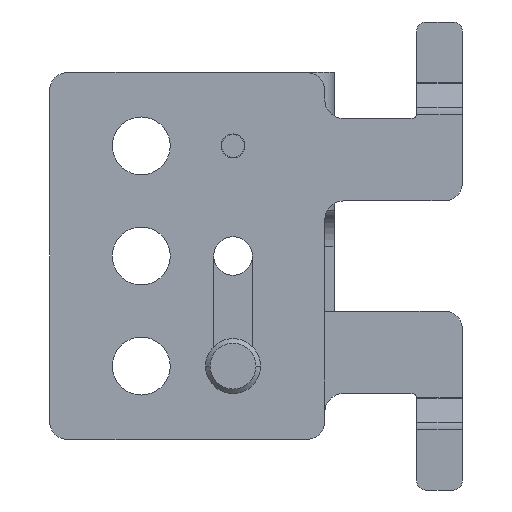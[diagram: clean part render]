
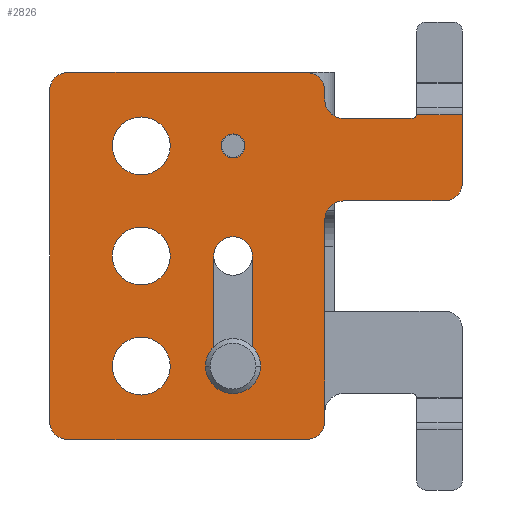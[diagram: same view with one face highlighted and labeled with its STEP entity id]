
A CAD part, left-side view. The second image highlights one B-rep face of the part: STEP entity #2826.
In plain terms, the highlighted planar face has unit normal (-1, 0, 0) as drawn and (1, 0, 0) by its records, which use the part's own axes.
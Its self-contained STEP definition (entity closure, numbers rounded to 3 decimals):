
#2063=DIRECTION('',(0.,0.,-1.));
#2064=VECTOR('',#2063,12.);
#2065=CARTESIAN_POINT('',(2.,12.1,12.));
#2066=LINE('',#2065,#2064);
#2067=CARTESIAN_POINT('',(2.,10.,12.));
#2068=DIRECTION('',(-1.,0.,0.));
#2069=DIRECTION('',(0.,-1.,0.));
#2070=AXIS2_PLACEMENT_3D('',#2067,#2068,#2069);
#2072=DIRECTION('',(0.,0.,1.));
#2073=VECTOR('',#2072,12.);
#2074=CARTESIAN_POINT('',(2.,7.9,0.));
#2075=LINE('',#2074,#2073);
#2076=CARTESIAN_POINT('',(2.,10.,0.));
#2077=DIRECTION('',(-1.,0.,0.));
#2078=DIRECTION('',(0.,1.,0.));
#2079=AXIS2_PLACEMENT_3D('',#2076,#2077,#2078);
#2081=CARTESIAN_POINT('',(2.,10.,-12.));
#2082=DIRECTION('',(-1.,0.,0.));
#2083=DIRECTION('',(0.,0.,1.));
#2084=AXIS2_PLACEMENT_3D('',#2081,#2082,#2083);
#2086=CARTESIAN_POINT('',(2.,10.,-12.));
#2087=DIRECTION('',(-1.,0.,0.));
#2088=DIRECTION('',(0.,0.,-1.));
#2089=AXIS2_PLACEMENT_3D('',#2086,#2087,#2088);
#2091=CARTESIAN_POINT('',(2.,20.,-12.));
#2092=DIRECTION('',(-1.,0.,0.));
#2093=DIRECTION('',(0.,0.,-1.));
#2094=AXIS2_PLACEMENT_3D('',#2091,#2092,#2093);
#2096=CARTESIAN_POINT('',(2.,20.,-12.));
#2097=DIRECTION('',(-1.,0.,0.));
#2098=DIRECTION('',(0.,0.,1.));
#2099=AXIS2_PLACEMENT_3D('',#2096,#2097,#2098);
#2101=CARTESIAN_POINT('',(2.,20.,0.));
#2102=DIRECTION('',(-1.,0.,0.));
#2103=DIRECTION('',(0.,0.,-1.));
#2104=AXIS2_PLACEMENT_3D('',#2101,#2102,#2103);
#2106=CARTESIAN_POINT('',(2.,20.,0.));
#2107=DIRECTION('',(-1.,0.,0.));
#2108=DIRECTION('',(0.,0.,1.));
#2109=AXIS2_PLACEMENT_3D('',#2106,#2107,#2108);
#2111=CARTESIAN_POINT('',(2.,20.,12.));
#2112=DIRECTION('',(-1.,0.,0.));
#2113=DIRECTION('',(0.,0.,-1.));
#2114=AXIS2_PLACEMENT_3D('',#2111,#2112,#2113);
#2116=CARTESIAN_POINT('',(2.,20.,12.));
#2117=DIRECTION('',(-1.,0.,0.));
#2118=DIRECTION('',(0.,0.,1.));
#2119=AXIS2_PLACEMENT_3D('',#2116,#2117,#2118);
#2121=DIRECTION('',(0.,-1.,0.));
#2122=VECTOR('',#2121,7.5);
#2123=CARTESIAN_POINT('',(2.,-2.,-15.));
#2124=LINE('',#2123,#2122);
#2125=DIRECTION('',(0.,0.,-1.));
#2126=VECTOR('',#2125,7.419);
#2127=CARTESIAN_POINT('',(2.,-15.,-8.));
#2128=LINE('',#2127,#2126);
#2129=CARTESIAN_POINT('',(2.,-13.,-8.));
#2130=DIRECTION('',(1.,0.,0.));
#2131=DIRECTION('',(0.,0.,1.));
#2132=AXIS2_PLACEMENT_3D('',#2129,#2130,#2131);
#2134=DIRECTION('',(0.,-1.,0.));
#2135=VECTOR('',#2134,11.);
#2136=CARTESIAN_POINT('',(2.,-2.,-6.));
#2137=LINE('',#2136,#2135);
#2138=DIRECTION('',(0.,0.,-1.));
#2139=VECTOR('',#2138,22.);
#2140=CARTESIAN_POINT('',(2.,0.,18.));
#2141=LINE('',#2140,#2139);
#2142=CARTESIAN_POINT('',(2.,2.,18.));
#2143=DIRECTION('',(1.,0.,0.));
#2144=DIRECTION('',(0.,0.,1.));
#2145=AXIS2_PLACEMENT_3D('',#2142,#2143,#2144);
#2147=DIRECTION('',(0.,-1.,0.));
#2148=VECTOR('',#2147,26.);
#2149=CARTESIAN_POINT('',(2.,28.,20.));
#2150=LINE('',#2149,#2148);
#2151=CARTESIAN_POINT('',(2.,28.,18.));
#2152=DIRECTION('',(1.,0.,0.));
#2153=DIRECTION('',(0.,1.,0.));
#2154=AXIS2_PLACEMENT_3D('',#2151,#2152,#2153);
#2156=DIRECTION('',(0.,0.,1.));
#2157=VECTOR('',#2156,36.);
#2158=CARTESIAN_POINT('',(2.,30.,-18.));
#2159=LINE('',#2158,#2157);
#2160=CARTESIAN_POINT('',(2.,28.,-18.));
#2161=DIRECTION('',(1.,0.,0.));
#2162=DIRECTION('',(0.,0.,-1.));
#2163=AXIS2_PLACEMENT_3D('',#2160,#2161,#2162);
#2165=DIRECTION('',(0.,1.,0.));
#2166=VECTOR('',#2165,26.);
#2167=CARTESIAN_POINT('',(2.,2.,-20.));
#2168=LINE('',#2167,#2166);
#2169=CARTESIAN_POINT('',(2.,2.,-18.));
#2170=DIRECTION('',(1.,0.,0.));
#2171=DIRECTION('',(0.,-1.,0.));
#2172=AXIS2_PLACEMENT_3D('',#2169,#2170,#2171);
#2174=DIRECTION('',(0.,0.,1.));
#2175=VECTOR('',#2174,1.);
#2176=CARTESIAN_POINT('',(2.,0.,-18.));
#2177=LINE('',#2176,#2175);
#2222=CARTESIAN_POINT('',(2.,-9.993,-15.419));
#2224=CARTESIAN_POINT('',(2.,-9.5,-15.5));
#2225=DIRECTION('',(-1.,0.,0.));
#2226=DIRECTION('',(0.,-0.987,0.162));
#2227=AXIS2_PLACEMENT_3D('',#2224,#2225,#2226);
#2387=CARTESIAN_POINT('',(2.,-2.,-4.));
#2388=DIRECTION('',(-1.,0.,0.));
#2389=DIRECTION('',(0.,1.,0.));
#2390=AXIS2_PLACEMENT_3D('',#2387,#2388,#2389);
#2432=CARTESIAN_POINT('',(2.,-2.,-17.));
#2433=DIRECTION('',(-1.,0.,0.));
#2434=DIRECTION('',(0.,0.,1.));
#2435=AXIS2_PLACEMENT_3D('',#2432,#2433,#2434);
#2442=DIRECTION('',(0.,1.,0.));
#2443=VECTOR('',#2442,5.007);
#2444=CARTESIAN_POINT('',(2.,-15.,-15.419));
#2445=LINE('',#2444,#2443);
#2488=CARTESIAN_POINT('',(2.,12.1,12.));
#2489=CARTESIAN_POINT('',(2.,12.1,0.));
#2490=VERTEX_POINT('',#2488);
#2491=VERTEX_POINT('',#2489);
#2492=CARTESIAN_POINT('',(2.,7.9,0.));
#2493=VERTEX_POINT('',#2492);
#2494=CARTESIAN_POINT('',(2.,7.9,12.));
#2495=VERTEX_POINT('',#2494);
#2496=CARTESIAN_POINT('',(2.,10.,-10.7));
#2497=CARTESIAN_POINT('',(2.,10.,-13.3));
#2498=VERTEX_POINT('',#2496);
#2499=VERTEX_POINT('',#2497);
#2500=CARTESIAN_POINT('',(2.,20.,-15.15));
#2501=CARTESIAN_POINT('',(2.,20.,-8.85));
#2502=VERTEX_POINT('',#2500);
#2503=VERTEX_POINT('',#2501);
#2504=CARTESIAN_POINT('',(2.,20.,-3.15));
#2505=CARTESIAN_POINT('',(2.,20.,3.15));
#2506=VERTEX_POINT('',#2504);
#2507=VERTEX_POINT('',#2505);
#2508=CARTESIAN_POINT('',(2.,20.,8.85));
#2509=CARTESIAN_POINT('',(2.,20.,15.15));
#2510=VERTEX_POINT('',#2508);
#2511=VERTEX_POINT('',#2509);
#2516=CARTESIAN_POINT('',(2.,-13.,-6.));
#2517=VERTEX_POINT('',#2516);
#2518=CARTESIAN_POINT('',(2.,-15.,-8.));
#2519=VERTEX_POINT('',#2518);
#2524=CARTESIAN_POINT('',(2.,30.,18.));
#2525=VERTEX_POINT('',#2524);
#2526=CARTESIAN_POINT('',(2.,28.,20.));
#2527=VERTEX_POINT('',#2526);
#2532=CARTESIAN_POINT('',(2.,28.,-20.));
#2533=VERTEX_POINT('',#2532);
#2534=CARTESIAN_POINT('',(2.,30.,-18.));
#2535=VERTEX_POINT('',#2534);
#2538=CARTESIAN_POINT('',(2.,2.,20.));
#2539=VERTEX_POINT('',#2538);
#2566=CARTESIAN_POINT('',(2.,-9.5,-15.));
#2568=VERTEX_POINT('',#2566);
#2570=VERTEX_POINT('',#2222);
#2575=CARTESIAN_POINT('',(2.,2.,-20.));
#2576=VERTEX_POINT('',#2575);
#2577=CARTESIAN_POINT('',(2.,-2.,-15.));
#2579=VERTEX_POINT('',#2577);
#2581=CARTESIAN_POINT('',(2.,0.,-17.));
#2583=VERTEX_POINT('',#2581);
#2587=CARTESIAN_POINT('',(2.,0.,-18.));
#2588=VERTEX_POINT('',#2587);
#2611=CARTESIAN_POINT('',(2.,0.,18.));
#2612=VERTEX_POINT('',#2611);
#2614=CARTESIAN_POINT('',(2.,-2.,-6.));
#2616=VERTEX_POINT('',#2614);
#2618=CARTESIAN_POINT('',(2.,0.,-4.));
#2620=VERTEX_POINT('',#2618);
#2621=CARTESIAN_POINT('',(2.,-15.,-15.419));
#2622=VERTEX_POINT('',#2621);
#2755=CARTESIAN_POINT('',(2.,0.,0.));
#2756=DIRECTION('',(1.,0.,0.));
#2757=DIRECTION('',(0.,-1.,0.));
#2758=AXIS2_PLACEMENT_3D('',#2755,#2756,#2757);
#2759=PLANE('',#2758);
#2761=ORIENTED_EDGE('',*,*,#2760,.T.);
#2763=ORIENTED_EDGE('',*,*,#2762,.F.);
#2765=ORIENTED_EDGE('',*,*,#2764,.F.);
#2767=ORIENTED_EDGE('',*,*,#2766,.F.);
#2769=ORIENTED_EDGE('',*,*,#2768,.F.);
#2771=ORIENTED_EDGE('',*,*,#2770,.F.);
#2773=ORIENTED_EDGE('',*,*,#2772,.F.);
#2775=ORIENTED_EDGE('',*,*,#2774,.F.);
#2777=ORIENTED_EDGE('',*,*,#2776,.F.);
#2779=ORIENTED_EDGE('',*,*,#2778,.F.);
#2781=ORIENTED_EDGE('',*,*,#2780,.F.);
#2783=ORIENTED_EDGE('',*,*,#2782,.F.);
#2785=ORIENTED_EDGE('',*,*,#2784,.F.);
#2787=ORIENTED_EDGE('',*,*,#2786,.F.);
#2789=ORIENTED_EDGE('',*,*,#2788,.F.);
#2791=ORIENTED_EDGE('',*,*,#2790,.T.);
#2793=ORIENTED_EDGE('',*,*,#2792,.F.);
#2794=EDGE_LOOP('',(#2761,#2763,#2765,#2767,#2769,#2771,#2773,#2775,#2777,#2779,
#2781,#2783,#2785,#2787,#2789,#2791,#2793));
#2795=FACE_OUTER_BOUND('',#2794,.F.);
#2796=ORIENTED_EDGE('',*,*,#2707,.F.);
#2797=ORIENTED_EDGE('',*,*,#2722,.F.);
#2798=ORIENTED_EDGE('',*,*,#2736,.F.);
#2799=ORIENTED_EDGE('',*,*,#2749,.F.);
#2800=EDGE_LOOP('',(#2796,#2797,#2798,#2799));
#2801=FACE_BOUND('',#2800,.F.);
#2803=ORIENTED_EDGE('',*,*,#2802,.F.);
#2805=ORIENTED_EDGE('',*,*,#2804,.F.);
#2806=EDGE_LOOP('',(#2803,#2805));
#2807=FACE_BOUND('',#2806,.F.);
#2809=ORIENTED_EDGE('',*,*,#2808,.F.);
#2811=ORIENTED_EDGE('',*,*,#2810,.F.);
#2812=EDGE_LOOP('',(#2809,#2811));
#2813=FACE_BOUND('',#2812,.F.);
#2815=ORIENTED_EDGE('',*,*,#2814,.F.);
#2817=ORIENTED_EDGE('',*,*,#2816,.F.);
#2818=EDGE_LOOP('',(#2815,#2817));
#2819=FACE_BOUND('',#2818,.F.);
#2821=ORIENTED_EDGE('',*,*,#2820,.F.);
#2823=ORIENTED_EDGE('',*,*,#2822,.F.);
#2824=EDGE_LOOP('',(#2821,#2823));
#2825=FACE_BOUND('',#2824,.F.);
#2826=ADVANCED_FACE('',(#2795,#2801,#2807,#2813,#2819,#2825),#2759,.T.);
#2071=CIRCLE('',#2070,2.1);
#2080=CIRCLE('',#2079,2.1);
#2085=CIRCLE('',#2084,1.3);
#2090=CIRCLE('',#2089,1.3);
#2095=CIRCLE('',#2094,3.15);
#2100=CIRCLE('',#2099,3.15);
#2105=CIRCLE('',#2104,3.15);
#2110=CIRCLE('',#2109,3.15);
#2115=CIRCLE('',#2114,3.15);
#2120=CIRCLE('',#2119,3.15);
#2133=CIRCLE('',#2132,2.);
#2146=CIRCLE('',#2145,2.);
#2155=CIRCLE('',#2154,2.);
#2164=CIRCLE('',#2163,2.);
#2173=CIRCLE('',#2172,2.);
#2228=CIRCLE('',#2227,0.5);
#2391=CIRCLE('',#2390,2.);
#2436=CIRCLE('',#2435,2.);
#2707=EDGE_CURVE('',#2490,#2491,#2066,.T.);
#2722=EDGE_CURVE('',#2495,#2490,#2071,.T.);
#2736=EDGE_CURVE('',#2493,#2495,#2075,.T.);
#2749=EDGE_CURVE('',#2491,#2493,#2080,.T.);
#2760=EDGE_CURVE('',#2579,#2568,#2124,.T.);
#2762=EDGE_CURVE('',#2570,#2568,#2228,.T.);
#2764=EDGE_CURVE('',#2622,#2570,#2445,.T.);
#2766=EDGE_CURVE('',#2519,#2622,#2128,.T.);
#2768=EDGE_CURVE('',#2517,#2519,#2133,.T.);
#2770=EDGE_CURVE('',#2616,#2517,#2137,.T.);
#2772=EDGE_CURVE('',#2620,#2616,#2391,.T.);
#2774=EDGE_CURVE('',#2612,#2620,#2141,.T.);
#2776=EDGE_CURVE('',#2539,#2612,#2146,.T.);
#2778=EDGE_CURVE('',#2527,#2539,#2150,.T.);
#2780=EDGE_CURVE('',#2525,#2527,#2155,.T.);
#2782=EDGE_CURVE('',#2535,#2525,#2159,.T.);
#2784=EDGE_CURVE('',#2533,#2535,#2164,.T.);
#2786=EDGE_CURVE('',#2576,#2533,#2168,.T.);
#2788=EDGE_CURVE('',#2588,#2576,#2173,.T.);
#2790=EDGE_CURVE('',#2588,#2583,#2177,.T.);
#2792=EDGE_CURVE('',#2579,#2583,#2436,.T.);
#2802=EDGE_CURVE('',#2498,#2499,#2085,.T.);
#2804=EDGE_CURVE('',#2499,#2498,#2090,.T.);
#2808=EDGE_CURVE('',#2502,#2503,#2095,.T.);
#2810=EDGE_CURVE('',#2503,#2502,#2100,.T.);
#2814=EDGE_CURVE('',#2506,#2507,#2105,.T.);
#2816=EDGE_CURVE('',#2507,#2506,#2110,.T.);
#2820=EDGE_CURVE('',#2510,#2511,#2115,.T.);
#2822=EDGE_CURVE('',#2511,#2510,#2120,.T.);
